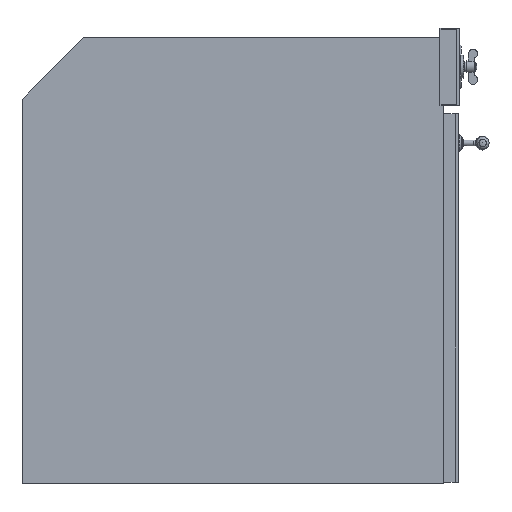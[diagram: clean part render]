
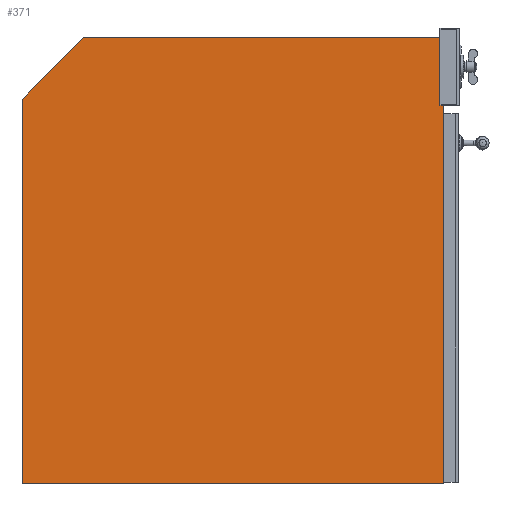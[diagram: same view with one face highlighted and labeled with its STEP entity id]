
A CAD part, front view. The second image highlights one B-rep face of the part: STEP entity #371.
In plain terms, the highlighted planar face has unit normal (0, -1, 0).
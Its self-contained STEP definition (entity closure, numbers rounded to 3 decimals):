
#277=FACE_OUTER_BOUND('',#956,.T.);
#371=ADVANCED_FACE('',(#277),#564,.T.);
#564=PLANE('',#3969);
#956=EDGE_LOOP('',(#1350,#1351,#1352,#1353,#1354));
#1350=ORIENTED_EDGE('',*,*,#2173,.T.);
#1351=ORIENTED_EDGE('',*,*,#2177,.T.);
#1352=ORIENTED_EDGE('',*,*,#2180,.T.);
#1353=ORIENTED_EDGE('',*,*,#2183,.T.);
#1354=ORIENTED_EDGE('',*,*,#2186,.T.);
#1911=VERTEX_POINT('',#5677);
#1912=VERTEX_POINT('',#5678);
#1915=VERTEX_POINT('',#5686);
#1917=VERTEX_POINT('',#5692);
#1919=VERTEX_POINT('',#5698);
#2173=EDGE_CURVE('',#1911,#1912,#3477,.T.);
#2177=EDGE_CURVE('',#1912,#1915,#3481,.T.);
#2180=EDGE_CURVE('',#1915,#1917,#3484,.T.);
#2183=EDGE_CURVE('',#1917,#1919,#3487,.T.);
#2186=EDGE_CURVE('',#1919,#1911,#3490,.T.);
#3477=LINE('',#5676,#3697);
#3481=LINE('',#5685,#3701);
#3484=LINE('',#5691,#3704);
#3487=LINE('',#5697,#3707);
#3490=LINE('',#5703,#3710);
#3697=VECTOR('',#4554,1.);
#3701=VECTOR('',#4560,1.);
#3704=VECTOR('',#4565,1.);
#3707=VECTOR('',#4570,1.);
#3710=VECTOR('',#4575,1.);
#3969=AXIS2_PLACEMENT_3D('',#5707,#4581,#4582);
#4554=DIRECTION('',(-1.,0.,0.));
#4560=DIRECTION('',(-0.707,0.,-0.707));
#4565=DIRECTION('',(0.,0.,-1.));
#4570=DIRECTION('',(1.,0.,0.));
#4575=DIRECTION('',(0.,0.,1.));
#4581=DIRECTION('',(0.,-1.,0.));
#4582=DIRECTION('',(0.,0.,-1.));
#5676=CARTESIAN_POINT('',(548.,0.,580.));
#5677=CARTESIAN_POINT('',(548.,0.,580.));
#5678=CARTESIAN_POINT('',(80.,0.,580.));
#5685=CARTESIAN_POINT('',(80.,0.,580.));
#5686=CARTESIAN_POINT('',(0.,0.,500.));
#5691=CARTESIAN_POINT('',(0.,0.,500.));
#5692=CARTESIAN_POINT('',(0.,0.,0.));
#5697=CARTESIAN_POINT('',(0.,0.,0.));
#5698=CARTESIAN_POINT('',(548.,0.,0.));
#5703=CARTESIAN_POINT('',(548.,0.,0.));
#5707=CARTESIAN_POINT('',(0.,0.,580.));
